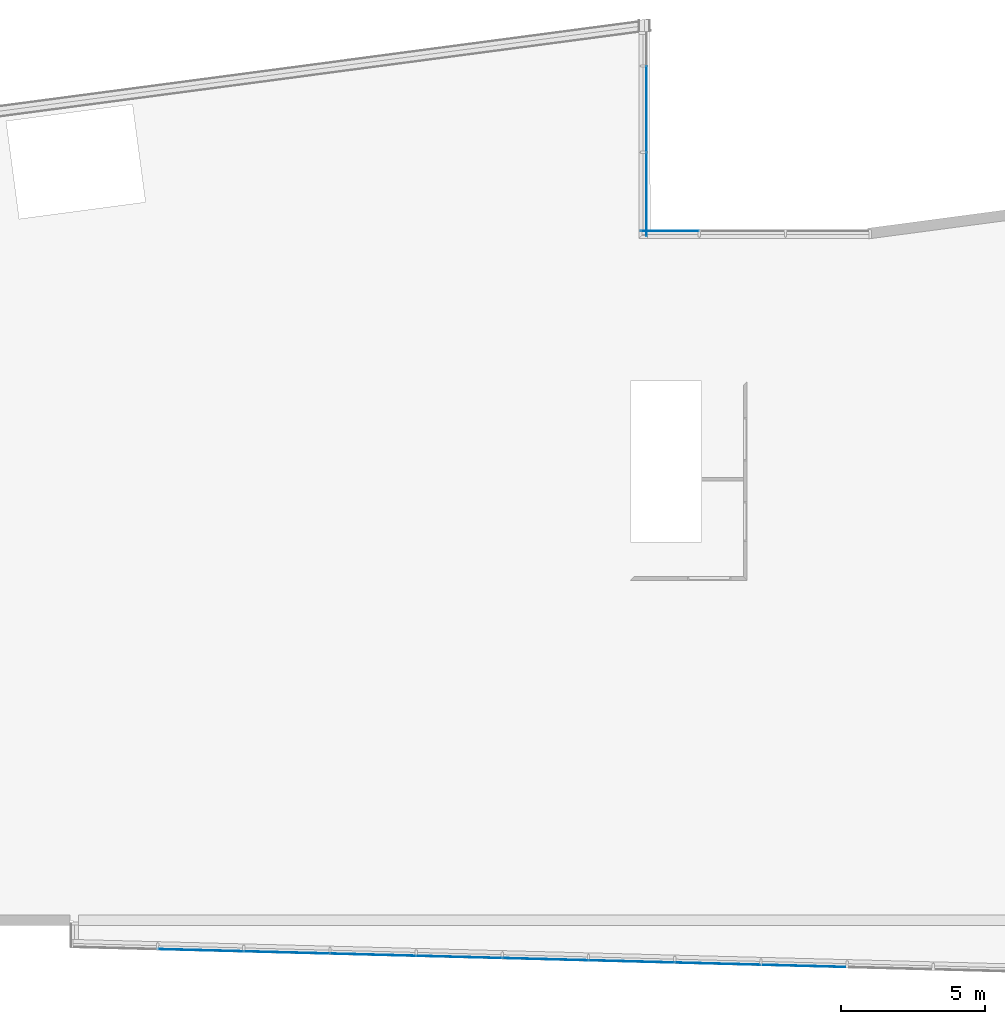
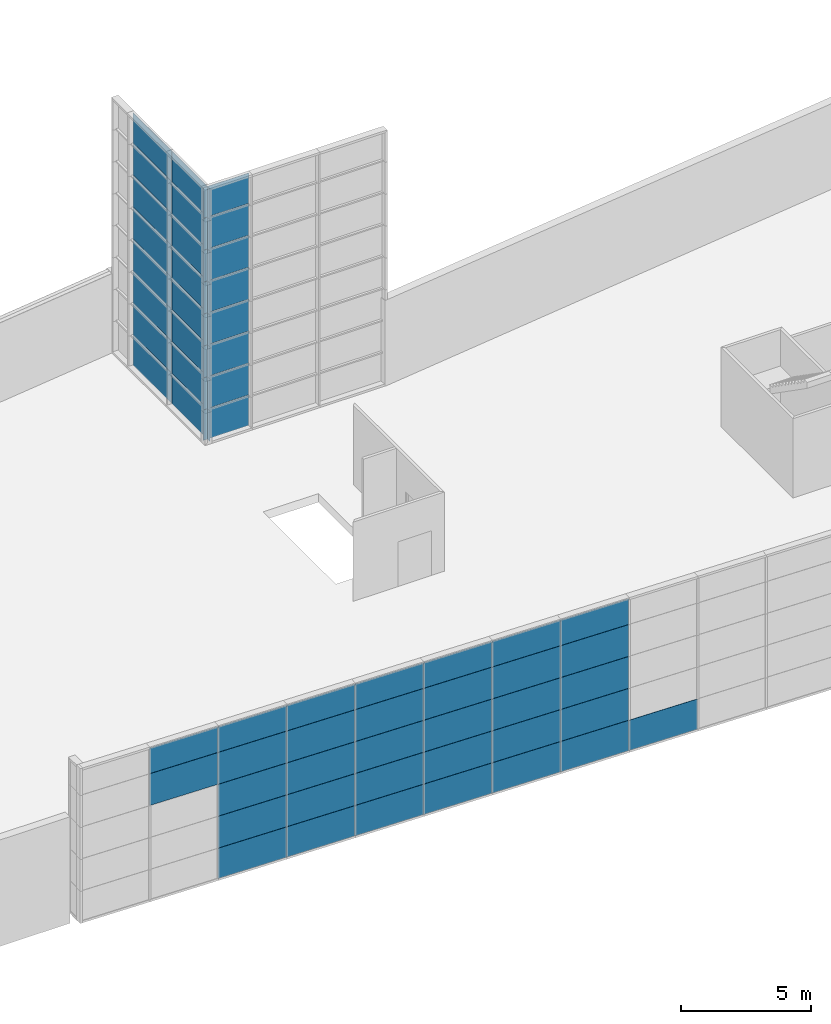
# One storey, part 15 of 27: 57 plates, 3 elements without a shape of their own.
"""IFC2X3 building model written with IfcOpenShell, lengths in metres."""

from ifc_helpers import new_model, entity, si_unit, converted_unit, money_unit, direction, frame, origin_with_axes, place, context, subcontext, project, spatial, polyline, outline, extrude, material, type_object, element, aggregate, save


model = new_model("IFC2X3")

# Units and contexts
model_context = context("Model", 3, precision=1e-05, world=origin_with_axes(), true_north=direction((0.0, 1.0)))
body_context = subcontext(model_context, "Body", "Model", "MODEL_VIEW")
ifc_project = project(units=[si_unit("LENGTHUNIT", "METRE"), si_unit("AREAUNIT", "SQUARE_METRE"), si_unit("VOLUMEUNIT", "CUBIC_METRE"), converted_unit("PLANEANGLEUNIT", "DEGREE", entity("IfcPlaneAngleMeasure", 0.0174532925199), si_unit("PLANEANGLEUNIT", "RADIAN"), dimensions=[0, 0, 0, 0, 0, 0, 0]), si_unit("SOLIDANGLEUNIT", "STERADIAN"), money_unit("EUR"), converted_unit("TIMEUNIT", "Year", entity("IfcTimeMeasure", 31556926.0), si_unit("TIMEUNIT", "SECOND"), dimensions=[0, 0, 0, 0, 0, 0, 0]), si_unit("MASSUNIT", "GRAM"), si_unit("THERMODYNAMICTEMPERATUREUNIT", "DEGREE_CELSIUS"), si_unit("LUMINOUSINTENSITYUNIT", "LUMEN")], contexts=[model_context])

# Site, building, storey
site_placement = place(None, origin_with_axes())
site = spatial("IfcSite", under=ifc_project, at=site_placement, Name="Undefined", CompositionType="ELEMENT")
building_placement = place(site_placement, origin_with_axes())
building = spatial("IfcBuilding", under=site, at=building_placement, Name="Undefined", CompositionType="ELEMENT")
storey_placement = place(building_placement, frame((0.0, 0.0, 5.4), z_axis=(0.0, 0.0, 1.0), x_axis=(1.0, 0.0, 0.0)))
storey = spatial("IfcBuildingStorey", under=building, at=storey_placement, Name="R+1", CompositionType="ELEMENT", Elevation=5.4)

# Curtain wall, plates
curtain_wall_type = type_object("IfcCurtainWallType", Name="Type de mur-rideau", PredefinedType="NOTDEFINED")
curtain_wall_1_placement = place(storey_placement, frame((29.5, 25.04409, 0.0), z_axis=(0.0, 0.0, 1.0), x_axis=(1.0, 0.0, 0.0)))
curtain_wall_1 = element("IfcCurtainWall", 1, at=curtain_wall_1_placement, inside=storey, type_object=curtain_wall_type, Name="CurtainWall_01", ObjectType="CURTAIN WALL")
ifc_material = material(Name="Background 7019220")
plate_type_1 = type_object("IfcPlateType", Name="Panneau principal 2920 x 1490 x 20", PredefinedType="NOTDEFINED")
plate_1_placement = place(curtain_wall_1_placement, frame((0.0, 0.0, 2.25), z_axis=(0.0, 0.0, 1.0), x_axis=(0.0, -1.0, 0.0)))
plate_1 = element("IfcPlate", 2, at=plate_1_placement, type_object=plate_type_1, material=ifc_material, Name="Panel-Main-538", context=body_context, shape_type="SweptSolid", body=[
    extrude(outline(polyline([(0.07, 0.005), (2.99, 0.005), (2.99, 1.495), (0.07, 1.495), (0.07, 0.005)])), frame((1.5, 0.0, -0.75), z_axis=(0.0, 1.0, 0.0), x_axis=(-1.0, 0.0, 0.0)), (0.0, 0.0, 1.0), 0.02),
])
plate_2_placement = place(curtain_wall_1_placement, frame((0.0, 0.0, 5.25), z_axis=(0.0, 0.0, 1.0), x_axis=(0.0, -1.0, 0.0)))
plate_2 = element("IfcPlate", 3, at=plate_2_placement, type_object=plate_type_1, material=ifc_material, Name="Panel-Main-540", context=body_context, shape_type="SweptSolid", body=[
    extrude(outline(polyline([(0.07, 0.005), (2.99, 0.005), (2.99, 1.495), (0.07, 1.495), (0.07, 0.005)])), frame((1.5, 0.0, -0.75), z_axis=(0.0, 1.0, 0.0), x_axis=(-1.0, 0.0, 0.0)), (0.0, 0.0, 1.0), 0.02),
])
plate_3_placement = place(curtain_wall_1_placement, frame((0.0, 0.0, 8.25), z_axis=(0.0, 0.0, 1.0), x_axis=(0.0, -1.0, 0.0)))
plate_3 = element("IfcPlate", 4, at=plate_3_placement, type_object=plate_type_1, material=ifc_material, Name="Panel-Main-542", context=body_context, shape_type="SweptSolid", body=[
    extrude(outline(polyline([(0.07, 0.005), (2.99, 0.005), (2.99, 1.495), (0.07, 1.495), (0.07, 0.005)])), frame((1.5, 0.0, -0.75), z_axis=(0.0, 1.0, 0.0), x_axis=(-1.0, 0.0, 0.0)), (0.0, 0.0, 1.0), 0.02),
])
plate_type_2 = type_object("IfcPlateType", Name="Panneau secondaire 2980 x 1490 x 20", PredefinedType="NOTDEFINED")
plate_4_placement = place(curtain_wall_1_placement, frame((0.0, 3.0, 2.25), z_axis=(0.0, 0.0, 1.0), x_axis=(0.0, -1.0, 0.0)))
plate_4 = element("IfcPlate", 5, at=plate_4_placement, type_object=plate_type_2, material=ifc_material, Name="Panel-Dist-171", context=body_context, shape_type="SweptSolid", body=[
    extrude(outline(polyline([(0.01, 0.005), (2.99, 0.005), (2.99, 1.495), (0.01, 1.495), (0.01, 0.005)])), frame((1.5, 0.0, -0.75), z_axis=(0.0, 1.0, 0.0), x_axis=(-1.0, 0.0, 0.0)), (0.0, 0.0, 1.0), 0.02),
])
plate_5_placement = place(curtain_wall_1_placement, frame((0.0, 3.0, 3.75), z_axis=(0.0, 0.0, 1.0), x_axis=(0.0, -1.0, 0.0)))
plate_5 = element("IfcPlate", 6, at=plate_5_placement, type_object=plate_type_2, material=ifc_material, Name="Panel-Dist-173", context=body_context, shape_type="SweptSolid", body=[
    extrude(outline(polyline([(0.01, 0.005), (2.99, 0.005), (2.99, 1.495), (0.01, 1.495), (0.01, 0.005)])), frame((1.5, 0.0, -0.75), z_axis=(0.0, 1.0, 0.0), x_axis=(-1.0, 0.0, 0.0)), (0.0, 0.0, 1.0), 0.02),
])
plate_6_placement = place(curtain_wall_1_placement, frame((0.0, 3.0, 5.25), z_axis=(0.0, 0.0, 1.0), x_axis=(0.0, -1.0, 0.0)))
plate_6 = element("IfcPlate", 7, at=plate_6_placement, type_object=plate_type_2, material=ifc_material, Name="Panel-Dist-175", context=body_context, shape_type="SweptSolid", body=[
    extrude(outline(polyline([(0.01, 0.005), (2.99, 0.005), (2.99, 1.495), (0.01, 1.495), (0.01, 0.005)])), frame((1.5, 0.0, -0.75), z_axis=(0.0, 1.0, 0.0), x_axis=(-1.0, 0.0, 0.0)), (0.0, 0.0, 1.0), 0.02),
])
plate_7_placement = place(curtain_wall_1_placement, frame((0.0, 3.0, 6.75), z_axis=(0.0, 0.0, 1.0), x_axis=(0.0, -1.0, 0.0)))
plate_7 = element("IfcPlate", 8, at=plate_7_placement, type_object=plate_type_2, material=ifc_material, Name="Panel-Dist-177", context=body_context, shape_type="SweptSolid", body=[
    extrude(outline(polyline([(0.01, 0.005), (2.99, 0.005), (2.99, 1.495), (0.01, 1.495), (0.01, 0.005)])), frame((1.5, 0.0, -0.75), z_axis=(0.0, 1.0, 0.0), x_axis=(-1.0, 0.0, 0.0)), (0.0, 0.0, 1.0), 0.02),
])
plate_8_placement = place(curtain_wall_1_placement, frame((0.0, 3.0, 8.25), z_axis=(0.0, 0.0, 1.0), x_axis=(0.0, -1.0, 0.0)))
plate_8 = element("IfcPlate", 9, at=plate_8_placement, type_object=plate_type_2, material=ifc_material, Name="Panel-Dist-179", context=body_context, shape_type="SweptSolid", body=[
    extrude(outline(polyline([(0.01, 0.005), (2.99, 0.005), (2.99, 1.495), (0.01, 1.495), (0.01, 0.005)])), frame((1.5, 0.0, -0.75), z_axis=(0.0, 1.0, 0.0), x_axis=(-1.0, 0.0, 0.0)), (0.0, 0.0, 1.0), 0.02),
])
plate_9_placement = place(curtain_wall_1_placement, frame((0.0, 3.0, 9.75), z_axis=(0.0, 0.0, 1.0), x_axis=(0.0, -1.0, 0.0)))
plate_9 = element("IfcPlate", 10, at=plate_9_placement, type_object=plate_type_2, material=ifc_material, Name="Panel-Dist-181", context=body_context, shape_type="SweptSolid", body=[
    extrude(outline(polyline([(0.01, 0.005), (2.99, 0.005), (2.99, 1.495), (0.01, 1.495), (0.01, 0.005)])), frame((1.5, 0.0, -0.75), z_axis=(0.0, 1.0, 0.0), x_axis=(-1.0, 0.0, 0.0)), (0.0, 0.0, 1.0), 0.02),
])

curtain_wall_2_placement = place(storey_placement, frame((10.9994920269, -1.13484133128, -0.55), z_axis=(0.0, 0.0, 1.0), x_axis=(1.0, 0.0, 0.0)))
curtain_wall_2 = element("IfcCurtainWall", 11, at=curtain_wall_2_placement, inside=storey, type_object=curtain_wall_type, Name="CurtainWall_01", ObjectType="CURTAIN WALL")
plate_10_placement = place(curtain_wall_2_placement, frame((8.99695233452, -0.234197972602, 2.25), z_axis=(0.0, 0.0, 1.0), x_axis=(-0.999661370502, 0.0260219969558, 0.0)))
plate_10 = element("IfcPlate", 12, at=plate_10_placement, type_object=plate_type_2, material=ifc_material, Name="Panel-Dist-569", context=body_context, shape_type="SweptSolid", body=[
    extrude(outline(polyline([(0.01, 0.005), (2.99, 0.005), (2.99, 1.495), (0.01, 1.495), (0.01, 0.005)])), frame((1.5, 0.0, -0.75), z_axis=(0.0, 1.0, 0.0), x_axis=(-1.0, 0.0, 0.0)), (0.0, 0.0, 1.0), 0.02),
])
plate_11_placement = place(curtain_wall_2_placement, frame((14.9949205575, -0.390329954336, 2.25), z_axis=(0.0, 0.0, 1.0), x_axis=(-0.999661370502, 0.0260219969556, 0.0)))
plate_11 = element("IfcPlate", 13, at=plate_11_placement, type_object=plate_type_2, material=ifc_material, Name="Panel-Dist-569", context=body_context, shape_type="SweptSolid", body=[
    extrude(outline(polyline([(0.01, 0.005), (2.99, 0.005), (2.99, 1.495), (0.01, 1.495), (0.01, 0.005)])), frame((1.5, 0.0, -0.75), z_axis=(0.0, 1.0, 0.0), x_axis=(-1.0, 0.0, 0.0)), (0.0, 0.0, 1.0), 0.02),
])
plate_12_placement = place(curtain_wall_2_placement, frame((20.9928887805, -0.546461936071, 2.25), z_axis=(0.0, 0.0, 1.0), x_axis=(-0.999661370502, 0.0260219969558, 0.0)))
plate_12 = element("IfcPlate", 14, at=plate_12_placement, type_object=plate_type_2, material=ifc_material, Name="Panel-Dist-569", context=body_context, shape_type="SweptSolid", body=[
    extrude(outline(polyline([(0.01, 0.005), (2.99, 0.005), (2.99, 1.495), (0.01, 1.495), (0.01, 0.005)])), frame((1.5, 0.0, -0.75), z_axis=(0.0, 1.0, 0.0), x_axis=(-1.0, 0.0, 0.0)), (0.0, 0.0, 1.0), 0.02),
])
plate_13_placement = place(curtain_wall_2_placement, frame((5.99796822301, -0.156131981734, 3.75), z_axis=(0.0, 0.0, 1.0), x_axis=(-0.999661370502, 0.0260219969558, 0.0)))
plate_13 = element("IfcPlate", 15, at=plate_13_placement, type_object=plate_type_2, material=ifc_material, Name="Panel-Dist-569", context=body_context, shape_type="SweptSolid", body=[
    extrude(outline(polyline([(0.01, 0.005), (2.99, 0.005), (2.99, 1.495), (0.01, 1.495), (0.01, 0.005)])), frame((1.5, 0.0, -0.75), z_axis=(0.0, 1.0, 0.0), x_axis=(-1.0, 0.0, 0.0)), (0.0, 0.0, 1.0), 0.02),
])
plate_14_placement = place(curtain_wall_2_placement, frame((8.99695233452, -0.234197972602, 3.75), z_axis=(0.0, 0.0, 1.0), x_axis=(-0.999661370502, 0.0260219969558, 0.0)))
plate_14 = element("IfcPlate", 16, at=plate_14_placement, type_object=plate_type_2, material=ifc_material, Name="Panel-Dist-569", context=body_context, shape_type="SweptSolid", body=[
    extrude(outline(polyline([(0.01, 0.005), (2.99, 0.005), (2.99, 1.495), (0.01, 1.495), (0.01, 0.005)])), frame((1.5, 0.0, -0.75), z_axis=(0.0, 1.0, 0.0), x_axis=(-1.0, 0.0, 0.0)), (0.0, 0.0, 1.0), 0.02),
])
plate_15_placement = place(curtain_wall_2_placement, frame((11.995936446, -0.312263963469, 3.75), z_axis=(0.0, 0.0, 1.0), x_axis=(-0.999661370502, 0.0260219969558, 0.0)))
plate_15 = element("IfcPlate", 17, at=plate_15_placement, type_object=plate_type_2, material=ifc_material, Name="Panel-Dist-569", context=body_context, shape_type="SweptSolid", body=[
    extrude(outline(polyline([(0.01, 0.005), (2.99, 0.005), (2.99, 1.495), (0.01, 1.495), (0.01, 0.005)])), frame((1.5, 0.0, -0.75), z_axis=(0.0, 1.0, 0.0), x_axis=(-1.0, 0.0, 0.0)), (0.0, 0.0, 1.0), 0.02),
])
plate_16_placement = place(curtain_wall_2_placement, frame((14.9949205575, -0.390329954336, 3.75), z_axis=(0.0, 0.0, 1.0), x_axis=(-0.999661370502, 0.0260219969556, 0.0)))
plate_16 = element("IfcPlate", 18, at=plate_16_placement, type_object=plate_type_2, material=ifc_material, Name="Panel-Dist-569", context=body_context, shape_type="SweptSolid", body=[
    extrude(outline(polyline([(0.01, 0.005), (2.99, 0.005), (2.99, 1.495), (0.01, 1.495), (0.01, 0.005)])), frame((1.5, 0.0, -0.75), z_axis=(0.0, 1.0, 0.0), x_axis=(-1.0, 0.0, 0.0)), (0.0, 0.0, 1.0), 0.02),
])
plate_17_placement = place(curtain_wall_2_placement, frame((17.993904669, -0.468395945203, 3.75), z_axis=(0.0, 0.0, 1.0), x_axis=(-0.999661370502, 0.0260219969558, 0.0)))
plate_17 = element("IfcPlate", 19, at=plate_17_placement, type_object=plate_type_2, material=ifc_material, Name="Panel-Dist-569", context=body_context, shape_type="SweptSolid", body=[
    extrude(outline(polyline([(0.01, 0.005), (2.99, 0.005), (2.99, 1.495), (0.01, 1.495), (0.01, 0.005)])), frame((1.5, 0.0, -0.75), z_axis=(0.0, 1.0, 0.0), x_axis=(-1.0, 0.0, 0.0)), (0.0, 0.0, 1.0), 0.02),
])
plate_18_placement = place(curtain_wall_2_placement, frame((20.9928887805, -0.546461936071, 3.75), z_axis=(0.0, 0.0, 1.0), x_axis=(-0.999661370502, 0.0260219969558, 0.0)))
plate_18 = element("IfcPlate", 20, at=plate_18_placement, type_object=plate_type_2, material=ifc_material, Name="Panel-Dist-569", context=body_context, shape_type="SweptSolid", body=[
    extrude(outline(polyline([(0.01, 0.005), (2.99, 0.005), (2.99, 1.495), (0.01, 1.495), (0.01, 0.005)])), frame((1.5, 0.0, -0.75), z_axis=(0.0, 1.0, 0.0), x_axis=(-1.0, 0.0, 0.0)), (0.0, 0.0, 1.0), 0.02),
])
plate_19_placement = place(curtain_wall_2_placement, frame((2.99898411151, -0.0780659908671, 5.25), z_axis=(0.0, 0.0, 1.0), x_axis=(-0.999661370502, 0.0260219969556, 0.0)))
plate_19 = element("IfcPlate", 21, at=plate_19_placement, type_object=plate_type_2, material=ifc_material, Name="Panel-Dist-569", context=body_context, shape_type="SweptSolid", body=[
    extrude(outline(polyline([(0.01, 0.005), (2.99, 0.005), (2.99, 1.495), (0.01, 1.495), (0.01, 0.005)])), frame((1.5, 0.0, -0.75), z_axis=(0.0, 1.0, 0.0), x_axis=(-1.0, 0.0, 0.0)), (0.0, 0.0, 1.0), 0.02),
])
plate_20_placement = place(curtain_wall_2_placement, frame((8.99695233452, -0.234197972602, 5.25), z_axis=(0.0, 0.0, 1.0), x_axis=(-0.999661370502, 0.0260219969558, 0.0)))
plate_20 = element("IfcPlate", 22, at=plate_20_placement, type_object=plate_type_2, material=ifc_material, Name="Panel-Dist-569", context=body_context, shape_type="SweptSolid", body=[
    extrude(outline(polyline([(0.01, 0.005), (2.99, 0.005), (2.99, 1.495), (0.01, 1.495), (0.01, 0.005)])), frame((1.5, 0.0, -0.75), z_axis=(0.0, 1.0, 0.0), x_axis=(-1.0, 0.0, 0.0)), (0.0, 0.0, 1.0), 0.02),
])
plate_21_placement = place(curtain_wall_2_placement, frame((14.9949205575, -0.390329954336, 5.25), z_axis=(0.0, 0.0, 1.0), x_axis=(-0.999661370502, 0.0260219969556, 0.0)))
plate_21 = element("IfcPlate", 23, at=plate_21_placement, type_object=plate_type_2, material=ifc_material, Name="Panel-Dist-569", context=body_context, shape_type="SweptSolid", body=[
    extrude(outline(polyline([(0.01, 0.005), (2.99, 0.005), (2.99, 1.495), (0.01, 1.495), (0.01, 0.005)])), frame((1.5, 0.0, -0.75), z_axis=(0.0, 1.0, 0.0), x_axis=(-1.0, 0.0, 0.0)), (0.0, 0.0, 1.0), 0.02),
])
plate_22_placement = place(curtain_wall_2_placement, frame((20.9928887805, -0.546461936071, 5.25), z_axis=(0.0, 0.0, 1.0), x_axis=(-0.999661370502, 0.0260219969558, 0.0)))
plate_22 = element("IfcPlate", 24, at=plate_22_placement, type_object=plate_type_2, material=ifc_material, Name="Panel-Dist-569", context=body_context, shape_type="SweptSolid", body=[
    extrude(outline(polyline([(0.01, 0.005), (2.99, 0.005), (2.99, 1.495), (0.01, 1.495), (0.01, 0.005)])), frame((1.5, 0.0, -0.75), z_axis=(0.0, 1.0, 0.0), x_axis=(-1.0, 0.0, 0.0)), (0.0, 0.0, 1.0), 0.02),
])
plate_type_3 = type_object("IfcPlateType", Name="Panneau principal 2980 x 1490 x 20", PredefinedType="NOTDEFINED")
plate_23_placement = place(curtain_wall_2_placement, frame((5.99796822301, -0.156131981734, 2.25), z_axis=(0.0, 0.0, 1.0), x_axis=(-0.999661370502, 0.0260219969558, 0.0)))
plate_23 = element("IfcPlate", 25, at=plate_23_placement, type_object=plate_type_3, material=ifc_material, Name="Panel-Main-131", context=body_context, shape_type="SweptSolid", body=[
    extrude(outline(polyline([(0.01, 0.005), (2.99, 0.005), (2.99, 1.495), (0.01, 1.495), (0.01, 0.005)])), frame((1.5, 0.0, -0.75), z_axis=(0.0, 1.0, 0.0), x_axis=(-1.0, 0.0, 0.0)), (0.0, 0.0, 1.0), 0.02),
])
plate_24_placement = place(curtain_wall_2_placement, frame((11.995936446, -0.312263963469, 2.25), z_axis=(0.0, 0.0, 1.0), x_axis=(-0.999661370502, 0.0260219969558, 0.0)))
plate_24 = element("IfcPlate", 26, at=plate_24_placement, type_object=plate_type_3, material=ifc_material, Name="Panel-Main-131", context=body_context, shape_type="SweptSolid", body=[
    extrude(outline(polyline([(0.01, 0.005), (2.99, 0.005), (2.99, 1.495), (0.01, 1.495), (0.01, 0.005)])), frame((1.5, 0.0, -0.75), z_axis=(0.0, 1.0, 0.0), x_axis=(-1.0, 0.0, 0.0)), (0.0, 0.0, 1.0), 0.02),
])
plate_25_placement = place(curtain_wall_2_placement, frame((17.993904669, -0.468395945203, 2.25), z_axis=(0.0, 0.0, 1.0), x_axis=(-0.999661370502, 0.0260219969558, 0.0)))
plate_25 = element("IfcPlate", 27, at=plate_25_placement, type_object=plate_type_3, material=ifc_material, Name="Panel-Main-131", context=body_context, shape_type="SweptSolid", body=[
    extrude(outline(polyline([(0.01, 0.005), (2.99, 0.005), (2.99, 1.495), (0.01, 1.495), (0.01, 0.005)])), frame((1.5, 0.0, -0.75), z_axis=(0.0, 1.0, 0.0), x_axis=(-1.0, 0.0, 0.0)), (0.0, 0.0, 1.0), 0.02),
])
plate_26_placement = place(curtain_wall_2_placement, frame((5.99796822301, -0.156131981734, 5.25), z_axis=(0.0, 0.0, 1.0), x_axis=(-0.999661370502, 0.0260219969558, 0.0)))
plate_26 = element("IfcPlate", 28, at=plate_26_placement, type_object=plate_type_3, material=ifc_material, Name="Panel-Main-131", context=body_context, shape_type="SweptSolid", body=[
    extrude(outline(polyline([(0.01, 0.005), (2.99, 0.005), (2.99, 1.495), (0.01, 1.495), (0.01, 0.005)])), frame((1.5, 0.0, -0.75), z_axis=(0.0, 1.0, 0.0), x_axis=(-1.0, 0.0, 0.0)), (0.0, 0.0, 1.0), 0.02),
])
plate_27_placement = place(curtain_wall_2_placement, frame((11.995936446, -0.312263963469, 5.25), z_axis=(0.0, 0.0, 1.0), x_axis=(-0.999661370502, 0.0260219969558, 0.0)))
plate_27 = element("IfcPlate", 29, at=plate_27_placement, type_object=plate_type_3, material=ifc_material, Name="Panel-Main-131", context=body_context, shape_type="SweptSolid", body=[
    extrude(outline(polyline([(0.01, 0.005), (2.99, 0.005), (2.99, 1.495), (0.01, 1.495), (0.01, 0.005)])), frame((1.5, 0.0, -0.75), z_axis=(0.0, 1.0, 0.0), x_axis=(-1.0, 0.0, 0.0)), (0.0, 0.0, 1.0), 0.02),
])
plate_28_placement = place(curtain_wall_2_placement, frame((17.993904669, -0.468395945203, 5.25), z_axis=(0.0, 0.0, 1.0), x_axis=(-0.999661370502, 0.0260219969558, 0.0)))
plate_28 = element("IfcPlate", 30, at=plate_28_placement, type_object=plate_type_3, material=ifc_material, Name="Panel-Main-131", context=body_context, shape_type="SweptSolid", body=[
    extrude(outline(polyline([(0.01, 0.005), (2.99, 0.005), (2.99, 1.495), (0.01, 1.495), (0.01, 0.005)])), frame((1.5, 0.0, -0.75), z_axis=(0.0, 1.0, 0.0), x_axis=(-1.0, 0.0, 0.0)), (0.0, 0.0, 1.0), 0.02),
])

# Plate
plate_type_4 = type_object("IfcPlateType", Name="Panneau secondaire 2920 x 1490 x 20", PredefinedType="NOTDEFINED")
plate_29_placement = place(curtain_wall_1_placement, frame((0.0, 0.0, 3.75), z_axis=(0.0, 0.0, 1.0), x_axis=(0.0, -1.0, 0.0)))
plate_29 = element("IfcPlate", 31, at=plate_29_placement, type_object=plate_type_4, material=ifc_material, Name="Panel-Dist-172", context=body_context, shape_type="SweptSolid", body=[
    extrude(outline(polyline([(0.07, 0.005), (2.99, 0.005), (2.99, 1.495), (0.07, 1.495), (0.07, 0.005)])), frame((1.5, 0.0, -0.75), z_axis=(0.0, 1.0, 0.0), x_axis=(-1.0, 0.0, 0.0)), (0.0, 0.0, 1.0), 0.02),
])

plate_30_placement = place(curtain_wall_1_placement, frame((0.0, 0.0, 6.75), z_axis=(0.0, 0.0, 1.0), x_axis=(0.0, -1.0, 0.0)))
plate_30 = element("IfcPlate", 32, at=plate_30_placement, type_object=plate_type_4, material=ifc_material, Name="Panel-Dist-176", context=body_context, shape_type="SweptSolid", body=[
    extrude(outline(polyline([(0.07, 0.005), (2.99, 0.005), (2.99, 1.495), (0.07, 1.495), (0.07, 0.005)])), frame((1.5, 0.0, -0.75), z_axis=(0.0, 1.0, 0.0), x_axis=(-1.0, 0.0, 0.0)), (0.0, 0.0, 1.0), 0.02),
])

plate_31_placement = place(curtain_wall_1_placement, frame((0.0, 0.0, 9.75), z_axis=(0.0, 0.0, 1.0), x_axis=(0.0, -1.0, 0.0)))
plate_31 = element("IfcPlate", 33, at=plate_31_placement, type_object=plate_type_4, material=ifc_material, Name="Panel-Dist-180", context=body_context, shape_type="SweptSolid", body=[
    extrude(outline(polyline([(0.07, 0.005), (2.99, 0.005), (2.99, 1.495), (0.07, 1.495), (0.07, 0.005)])), frame((1.5, 0.0, -0.75), z_axis=(0.0, 1.0, 0.0), x_axis=(-1.0, 0.0, 0.0)), (0.0, 0.0, 1.0), 0.02),
])

plate_type_5 = type_object("IfcPlateType", Name="Panneau secondaire 2920 x 1425 x 20", PredefinedType="NOTDEFINED")
plate_32_placement = place(curtain_wall_1_placement, frame((0.0, 0.0, 0.75), z_axis=(0.0, 0.0, 1.0), x_axis=(0.0, -1.0, 0.0)))
plate_32 = element("IfcPlate", 34, at=plate_32_placement, type_object=plate_type_5, material=ifc_material, Name="Panel-Dist-168", context=body_context, shape_type="SweptSolid", body=[
    extrude(outline(polyline([(0.07, 0.07), (2.99, 0.07), (2.99, 1.495), (0.07, 1.495), (0.07, 0.07)])), frame((1.5, 0.0, -0.75), z_axis=(0.0, 1.0, 0.0), x_axis=(-1.0, 0.0, 0.0)), (0.0, 0.0, 1.0), 0.02),
])

plate_type_6 = type_object("IfcPlateType", Name="Panneau secondaire 2980 x 1425 x 20", PredefinedType="NOTDEFINED")
plate_33_placement = place(curtain_wall_1_placement, frame((0.0, 3.0, 0.75), z_axis=(0.0, 0.0, 1.0), x_axis=(0.0, -1.0, 0.0)))
plate_33 = element("IfcPlate", 35, at=plate_33_placement, type_object=plate_type_6, material=ifc_material, Name="Panel-Dist-169", context=body_context, shape_type="SweptSolid", body=[
    extrude(outline(polyline([(0.01, 0.07), (2.99, 0.07), (2.99, 1.495), (0.01, 1.495), (0.01, 0.07)])), frame((1.5, 0.0, -0.75), z_axis=(0.0, 1.0, 0.0), x_axis=(-1.0, 0.0, 0.0)), (0.0, 0.0, 1.0), 0.02),
])

plate_34_placement = place(curtain_wall_1_placement, frame((0.0, 3.0, 11.25), z_axis=(0.0, 0.0, 1.0), x_axis=(0.0, -1.0, 0.0)))
plate_34 = element("IfcPlate", 36, at=plate_34_placement, type_object=plate_type_6, material=ifc_material, Name="Panel-Dist-183", context=body_context, shape_type="SweptSolid", body=[
    extrude(outline(polyline([(0.01, 0.005), (2.99, 0.005), (2.99, 1.43), (0.01, 1.43), (0.01, 0.005)])), frame((1.5, 0.0, -0.75), z_axis=(0.0, 1.0, 0.0), x_axis=(-1.0, 0.0, 0.0)), (0.0, 0.0, 1.0), 0.02),
])

plate_35_placement = place(curtain_wall_2_placement, frame((5.99796822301, -0.156131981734, 0.75), z_axis=(0.0, 0.0, 1.0), x_axis=(-0.999661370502, 0.0260219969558, 0.0)))
plate_35 = element("IfcPlate", 37, at=plate_35_placement, type_object=plate_type_6, material=ifc_material, Name="Panel-Dist-569", context=body_context, shape_type="SweptSolid", body=[
    extrude(outline(polyline([(0.01, 0.07), (2.99, 0.07), (2.99, 1.495), (0.01, 1.495), (0.01, 0.07)])), frame((1.5, 0.0, -0.75), z_axis=(0.0, 1.0, 0.0), x_axis=(-1.0, 0.0, 0.0)), (0.0, 0.0, 1.0), 0.02),
])

plate_36_placement = place(curtain_wall_2_placement, frame((8.99695233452, -0.234197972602, 0.75), z_axis=(0.0, 0.0, 1.0), x_axis=(-0.999661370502, 0.0260219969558, 0.0)))
plate_36 = element("IfcPlate", 38, at=plate_36_placement, type_object=plate_type_6, material=ifc_material, Name="Panel-Dist-569", context=body_context, shape_type="SweptSolid", body=[
    extrude(outline(polyline([(0.01, 0.07), (2.99, 0.07), (2.99, 1.495), (0.01, 1.495), (0.01, 0.07)])), frame((1.5, 0.0, -0.75), z_axis=(0.0, 1.0, 0.0), x_axis=(-1.0, 0.0, 0.0)), (0.0, 0.0, 1.0), 0.02),
])

plate_37_placement = place(curtain_wall_2_placement, frame((11.995936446, -0.312263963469, 0.75), z_axis=(0.0, 0.0, 1.0), x_axis=(-0.999661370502, 0.0260219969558, 0.0)))
plate_37 = element("IfcPlate", 39, at=plate_37_placement, type_object=plate_type_6, material=ifc_material, Name="Panel-Dist-569", context=body_context, shape_type="SweptSolid", body=[
    extrude(outline(polyline([(0.01, 0.07), (2.99, 0.07), (2.99, 1.495), (0.01, 1.495), (0.01, 0.07)])), frame((1.5, 0.0, -0.75), z_axis=(0.0, 1.0, 0.0), x_axis=(-1.0, 0.0, 0.0)), (0.0, 0.0, 1.0), 0.02),
])

plate_38_placement = place(curtain_wall_2_placement, frame((14.9949205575, -0.390329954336, 0.75), z_axis=(0.0, 0.0, 1.0), x_axis=(-0.999661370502, 0.0260219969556, 0.0)))
plate_38 = element("IfcPlate", 40, at=plate_38_placement, type_object=plate_type_6, material=ifc_material, Name="Panel-Dist-569", context=body_context, shape_type="SweptSolid", body=[
    extrude(outline(polyline([(0.01, 0.07), (2.99, 0.07), (2.99, 1.495), (0.01, 1.495), (0.01, 0.07)])), frame((1.5, 0.0, -0.75), z_axis=(0.0, 1.0, 0.0), x_axis=(-1.0, 0.0, 0.0)), (0.0, 0.0, 1.0), 0.02),
])

plate_39_placement = place(curtain_wall_2_placement, frame((17.993904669, -0.468395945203, 0.75), z_axis=(0.0, 0.0, 1.0), x_axis=(-0.999661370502, 0.0260219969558, 0.0)))
plate_39 = element("IfcPlate", 41, at=plate_39_placement, type_object=plate_type_6, material=ifc_material, Name="Panel-Dist-569", context=body_context, shape_type="SweptSolid", body=[
    extrude(outline(polyline([(0.01, 0.07), (2.99, 0.07), (2.99, 1.495), (0.01, 1.495), (0.01, 0.07)])), frame((1.5, 0.0, -0.75), z_axis=(0.0, 1.0, 0.0), x_axis=(-1.0, 0.0, 0.0)), (0.0, 0.0, 1.0), 0.02),
])

plate_40_placement = place(curtain_wall_2_placement, frame((20.9928887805, -0.546461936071, 0.75), z_axis=(0.0, 0.0, 1.0), x_axis=(-0.999661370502, 0.0260219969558, 0.0)))
plate_40 = element("IfcPlate", 42, at=plate_40_placement, type_object=plate_type_6, material=ifc_material, Name="Panel-Dist-569", context=body_context, shape_type="SweptSolid", body=[
    extrude(outline(polyline([(0.01, 0.07), (2.99, 0.07), (2.99, 1.495), (0.01, 1.495), (0.01, 0.07)])), frame((1.5, 0.0, -0.75), z_axis=(0.0, 1.0, 0.0), x_axis=(-1.0, 0.0, 0.0)), (0.0, 0.0, 1.0), 0.02),
])

plate_41_placement = place(curtain_wall_2_placement, frame((23.9918728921, -0.624527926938, 0.75), z_axis=(0.0, 0.0, 1.0), x_axis=(-0.999661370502, 0.0260219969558, 0.0)))
plate_41 = element("IfcPlate", 43, at=plate_41_placement, type_object=plate_type_6, material=ifc_material, Name="Panel-Dist-569", context=body_context, shape_type="SweptSolid", body=[
    extrude(outline(polyline([(0.01, 0.07), (2.99, 0.07), (2.99, 1.495), (0.01, 1.495), (0.01, 0.07)])), frame((1.5, 0.0, -0.75), z_axis=(0.0, 1.0, 0.0), x_axis=(-1.0, 0.0, 0.0)), (0.0, 0.0, 1.0), 0.02),
])

plate_type_7 = type_object("IfcPlateType", Name="Panneau principal 2920 x 1425 x 20", PredefinedType="NOTDEFINED")
plate_42_placement = place(curtain_wall_1_placement, frame((0.0, 0.0, 11.25), z_axis=(0.0, 0.0, 1.0), x_axis=(0.0, -1.0, 0.0)))
plate_42 = element("IfcPlate", 44, at=plate_42_placement, type_object=plate_type_7, material=ifc_material, Name="Panel-Main-544", context=body_context, shape_type="SweptSolid", body=[
    extrude(outline(polyline([(0.07, 0.005), (2.99, 0.005), (2.99, 1.43), (0.07, 1.43), (0.07, 0.005)])), frame((1.5, 0.0, -0.75), z_axis=(0.0, 1.0, 0.0), x_axis=(-1.0, 0.0, 0.0)), (0.0, 0.0, 1.0), 0.02),
])

aggregate(curtain_wall_1, [plate_32, plate_33, plate_1, plate_4, plate_29, plate_5, plate_2, plate_6, plate_30, plate_7, plate_3, plate_8, plate_31, plate_9, plate_42, plate_34])

# Curtain wall, plates
curtain_wall_3_placement = place(storey_placement, frame((35.8499996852, 23.7940983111, 0.0), z_axis=(0.0, 0.0, 1.0), x_axis=(1.0, 0.0, 0.0)))
curtain_wall_3 = element("IfcCurtainWall", 45, at=curtain_wall_3_placement, inside=storey, type_object=curtain_wall_type, Name="CurtainWall_01", ObjectType="CURTAIN WALL")
plate_type_8 = type_object("IfcPlateType", Name="Panneau secondaire 2020 x 1425 x 20", PredefinedType="NOTDEFINED")
plate_43_placement = place(curtain_wall_3_placement, frame((-5.55, -6.98887986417e-06, 0.75), z_axis=(0.0, 0.0, 1.0), x_axis=(0.999999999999, 1.25925771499e-06, 0.0)))
plate_43 = element("IfcPlate", 46, at=plate_43_placement, type_object=plate_type_8, material=ifc_material, Name="Panel-Dist-142", context=body_context, shape_type="SweptSolid", body=[
    extrude(outline(polyline([(0.01, 0.07), (2.03, 0.07), (2.03, 1.495), (0.01, 1.495), (0.01, 0.07)])), frame((1.05, 0.0, -0.75), z_axis=(0.0, 1.0, 0.0), x_axis=(-1.0, 0.0, 0.0)), (0.0, 0.0, 1.0), 0.02),
])
plate_type_9 = type_object("IfcPlateType", Name="Panneau principal 2020 x 1490 x 20", PredefinedType="NOTDEFINED")
plate_44_placement = place(curtain_wall_3_placement, frame((-5.55, -6.98887986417e-06, 2.25), z_axis=(0.0, 0.0, 1.0), x_axis=(0.999999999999, 1.25925771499e-06, 0.0)))
plate_44 = element("IfcPlate", 47, at=plate_44_placement, type_object=plate_type_9, material=ifc_material, Name="Panel-Main-523", context=body_context, shape_type="SweptSolid", body=[
    extrude(outline(polyline([(0.01, 0.005), (2.03, 0.005), (2.03, 1.495), (0.01, 1.495), (0.01, 0.005)])), frame((1.05, 0.0, -0.75), z_axis=(0.0, 1.0, 0.0), x_axis=(-1.0, 0.0, 0.0)), (0.0, 0.0, 1.0), 0.02),
])
plate_45_placement = place(curtain_wall_3_placement, frame((-5.55, -6.98887986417e-06, 5.25), z_axis=(0.0, 0.0, 1.0), x_axis=(0.999999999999, 1.25925771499e-06, 0.0)))
plate_45 = element("IfcPlate", 48, at=plate_45_placement, type_object=plate_type_9, material=ifc_material, Name="Panel-Main-525", context=body_context, shape_type="SweptSolid", body=[
    extrude(outline(polyline([(0.01, 0.005), (2.03, 0.005), (2.03, 1.495), (0.01, 1.495), (0.01, 0.005)])), frame((1.05, 0.0, -0.75), z_axis=(0.0, 1.0, 0.0), x_axis=(-1.0, 0.0, 0.0)), (0.0, 0.0, 1.0), 0.02),
])
plate_46_placement = place(curtain_wall_3_placement, frame((-5.55, -6.98887986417e-06, 8.25), z_axis=(0.0, 0.0, 1.0), x_axis=(0.999999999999, 1.25925771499e-06, 0.0)))
plate_46 = element("IfcPlate", 49, at=plate_46_placement, type_object=plate_type_9, material=ifc_material, Name="Panel-Main-527", context=body_context, shape_type="SweptSolid", body=[
    extrude(outline(polyline([(0.01, 0.005), (2.03, 0.005), (2.03, 1.495), (0.01, 1.495), (0.01, 0.005)])), frame((1.05, 0.0, -0.75), z_axis=(0.0, 1.0, 0.0), x_axis=(-1.0, 0.0, 0.0)), (0.0, 0.0, 1.0), 0.02),
])
plate_type_10 = type_object("IfcPlateType", Name="Panneau secondaire 2020 x 1490 x 20", PredefinedType="NOTDEFINED")
plate_47_placement = place(curtain_wall_3_placement, frame((-5.55, -6.98887986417e-06, 3.75), z_axis=(0.0, 0.0, 1.0), x_axis=(0.999999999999, 1.25925771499e-06, 0.0)))
plate_47 = element("IfcPlate", 50, at=plate_47_placement, type_object=plate_type_10, material=ifc_material, Name="Panel-Dist-146", context=body_context, shape_type="SweptSolid", body=[
    extrude(outline(polyline([(0.01, 0.005), (2.03, 0.005), (2.03, 1.495), (0.01, 1.495), (0.01, 0.005)])), frame((1.05, 0.0, -0.75), z_axis=(0.0, 1.0, 0.0), x_axis=(-1.0, 0.0, 0.0)), (0.0, 0.0, 1.0), 0.02),
])
plate_48_placement = place(curtain_wall_3_placement, frame((-5.55, -6.98887986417e-06, 6.75), z_axis=(0.0, 0.0, 1.0), x_axis=(0.999999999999, 1.25925771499e-06, 0.0)))
plate_48 = element("IfcPlate", 51, at=plate_48_placement, type_object=plate_type_10, material=ifc_material, Name="Panel-Dist-150", context=body_context, shape_type="SweptSolid", body=[
    extrude(outline(polyline([(0.01, 0.005), (2.03, 0.005), (2.03, 1.495), (0.01, 1.495), (0.01, 0.005)])), frame((1.05, 0.0, -0.75), z_axis=(0.0, 1.0, 0.0), x_axis=(-1.0, 0.0, 0.0)), (0.0, 0.0, 1.0), 0.02),
])
plate_49_placement = place(curtain_wall_3_placement, frame((-5.55, -6.98887986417e-06, 9.75), z_axis=(0.0, 0.0, 1.0), x_axis=(0.999999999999, 1.25925771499e-06, 0.0)))
plate_49 = element("IfcPlate", 52, at=plate_49_placement, type_object=plate_type_10, material=ifc_material, Name="Panel-Dist-154", context=body_context, shape_type="SweptSolid", body=[
    extrude(outline(polyline([(0.01, 0.005), (2.03, 0.005), (2.03, 1.495), (0.01, 1.495), (0.01, 0.005)])), frame((1.05, 0.0, -0.75), z_axis=(0.0, 1.0, 0.0), x_axis=(-1.0, 0.0, 0.0)), (0.0, 0.0, 1.0), 0.02),
])
plate_type_11 = type_object("IfcPlateType", Name="Panneau principal 2020 x 1425 x 20", PredefinedType="NOTDEFINED")
plate_50_placement = place(curtain_wall_3_placement, frame((-5.55, -6.98887986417e-06, 11.25), z_axis=(0.0, 0.0, 1.0), x_axis=(0.999999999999, 1.25925771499e-06, 0.0)))
plate_50 = element("IfcPlate", 53, at=plate_50_placement, type_object=plate_type_11, material=ifc_material, Name="Panel-Main-529", context=body_context, shape_type="SweptSolid", body=[
    extrude(outline(polyline([(0.01, 0.005), (2.03, 0.005), (2.03, 1.43), (0.01, 1.43), (0.01, 0.005)])), frame((1.05, 0.0, -0.75), z_axis=(0.0, 1.0, 0.0), x_axis=(-1.0, 0.0, 0.0)), (0.0, 0.0, 1.0), 0.02),
])
aggregate(curtain_wall_3, [plate_43, plate_44, plate_47, plate_45, plate_48, plate_46, plate_49, plate_50])

# Plate
plate_type_12 = type_object("IfcPlateType", Name="Panneau secondaire 2980 x 1200 x 20", PredefinedType="NOTDEFINED")
plate_51_placement = place(curtain_wall_2_placement, frame((2.99898411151, -0.0780659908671, 6.63753415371), z_axis=(0.0, 0.0, 1.0), x_axis=(-0.999661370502, 0.0260219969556, 0.0)))
plate_51 = element("IfcPlate", 54, at=plate_51_placement, type_object=plate_type_12, material=ifc_material, Name="Panel-Dist-589", context=body_context, shape_type="SweptSolid", body=[
    extrude(outline(polyline([(0.01, 0.005), (2.99, 0.005), (2.99, 1.20506830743), (0.01, 1.20506830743), (0.01, 0.005)])), frame((1.5, 0.0, -0.637534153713), z_axis=(0.0, 1.0, 0.0), x_axis=(-1.0, 0.0, 0.0)), (0.0, 0.0, 1.0), 0.02),
])

plate_52_placement = place(curtain_wall_2_placement, frame((5.99796822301, -0.156131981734, 6.63753415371), z_axis=(0.0, 0.0, 1.0), x_axis=(-0.999661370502, 0.0260219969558, 0.0)))
plate_52 = element("IfcPlate", 55, at=plate_52_placement, type_object=plate_type_12, material=ifc_material, Name="Panel-Dist-590", context=body_context, shape_type="SweptSolid", body=[
    extrude(outline(polyline([(0.01, 0.005), (2.99, 0.005), (2.99, 1.20506830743), (0.01, 1.20506830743), (0.01, 0.005)])), frame((1.5, 0.0, -0.637534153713), z_axis=(0.0, 1.0, 0.0), x_axis=(-1.0, 0.0, 0.0)), (0.0, 0.0, 1.0), 0.02),
])

plate_53_placement = place(curtain_wall_2_placement, frame((8.99695233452, -0.234197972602, 6.63753415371), z_axis=(0.0, 0.0, 1.0), x_axis=(-0.999661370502, 0.0260219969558, 0.0)))
plate_53 = element("IfcPlate", 56, at=plate_53_placement, type_object=plate_type_12, material=ifc_material, Name="Panel-Dist-591", context=body_context, shape_type="SweptSolid", body=[
    extrude(outline(polyline([(0.01, 0.005), (2.99, 0.005), (2.99, 1.20506830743), (0.01, 1.20506830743), (0.01, 0.005)])), frame((1.5, 0.0, -0.637534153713), z_axis=(0.0, 1.0, 0.0), x_axis=(-1.0, 0.0, 0.0)), (0.0, 0.0, 1.0), 0.02),
])

plate_54_placement = place(curtain_wall_2_placement, frame((11.995936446, -0.312263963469, 6.63753415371), z_axis=(0.0, 0.0, 1.0), x_axis=(-0.999661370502, 0.0260219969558, 0.0)))
plate_54 = element("IfcPlate", 57, at=plate_54_placement, type_object=plate_type_12, material=ifc_material, Name="Panel-Dist-592", context=body_context, shape_type="SweptSolid", body=[
    extrude(outline(polyline([(0.01, 0.005), (2.99, 0.005), (2.99, 1.20506830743), (0.01, 1.20506830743), (0.01, 0.005)])), frame((1.5, 0.0, -0.637534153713), z_axis=(0.0, 1.0, 0.0), x_axis=(-1.0, 0.0, 0.0)), (0.0, 0.0, 1.0), 0.02),
])

plate_55_placement = place(curtain_wall_2_placement, frame((14.9949205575, -0.390329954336, 6.63753415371), z_axis=(0.0, 0.0, 1.0), x_axis=(-0.999661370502, 0.0260219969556, 0.0)))
plate_55 = element("IfcPlate", 58, at=plate_55_placement, type_object=plate_type_12, material=ifc_material, Name="Panel-Dist-593", context=body_context, shape_type="SweptSolid", body=[
    extrude(outline(polyline([(0.01, 0.005), (2.99, 0.005), (2.99, 1.20506830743), (0.01, 1.20506830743), (0.01, 0.005)])), frame((1.5, 0.0, -0.637534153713), z_axis=(0.0, 1.0, 0.0), x_axis=(-1.0, 0.0, 0.0)), (0.0, 0.0, 1.0), 0.02),
])

plate_56_placement = place(curtain_wall_2_placement, frame((17.993904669, -0.468395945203, 6.63753415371), z_axis=(0.0, 0.0, 1.0), x_axis=(-0.999661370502, 0.0260219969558, 0.0)))
plate_56 = element("IfcPlate", 59, at=plate_56_placement, type_object=plate_type_12, material=ifc_material, Name="Panel-Dist-594", context=body_context, shape_type="SweptSolid", body=[
    extrude(outline(polyline([(0.01, 0.005), (2.99, 0.005), (2.99, 1.20506830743), (0.01, 1.20506830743), (0.01, 0.005)])), frame((1.5, 0.0, -0.637534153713), z_axis=(0.0, 1.0, 0.0), x_axis=(-1.0, 0.0, 0.0)), (0.0, 0.0, 1.0), 0.02),
])

plate_57_placement = place(curtain_wall_2_placement, frame((20.9928887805, -0.546461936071, 6.63753415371), z_axis=(0.0, 0.0, 1.0), x_axis=(-0.999661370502, 0.0260219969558, 0.0)))
plate_57 = element("IfcPlate", 60, at=plate_57_placement, type_object=plate_type_12, material=ifc_material, Name="Panel-Dist-595", context=body_context, shape_type="SweptSolid", body=[
    extrude(outline(polyline([(0.01, 0.005), (2.99, 0.005), (2.99, 1.20506830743), (0.01, 1.20506830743), (0.01, 0.005)])), frame((1.5, 0.0, -0.637534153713), z_axis=(0.0, 1.0, 0.0), x_axis=(-1.0, 0.0, 0.0)), (0.0, 0.0, 1.0), 0.02),
])

aggregate(curtain_wall_2, [plate_35, plate_36, plate_37, plate_38, plate_39, plate_40, plate_41, plate_23, plate_10, plate_24, plate_11, plate_25, plate_12, plate_13, plate_14, plate_15, plate_16, plate_17, plate_18, plate_19, plate_26, plate_20, plate_27, plate_21, plate_28, plate_22, plate_51, plate_52, plate_53, plate_54, plate_55, plate_56, plate_57])

save(model, "model.ifc")
